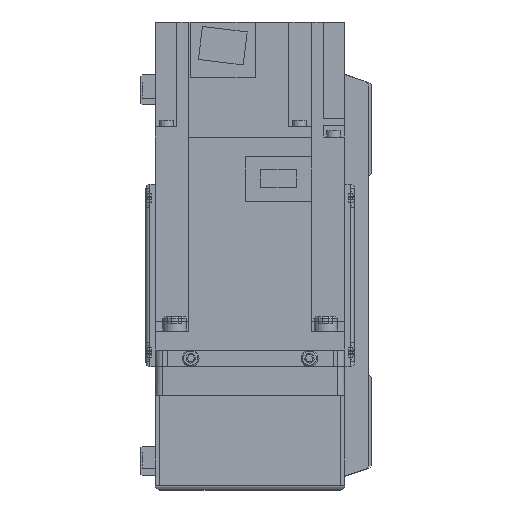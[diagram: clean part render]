
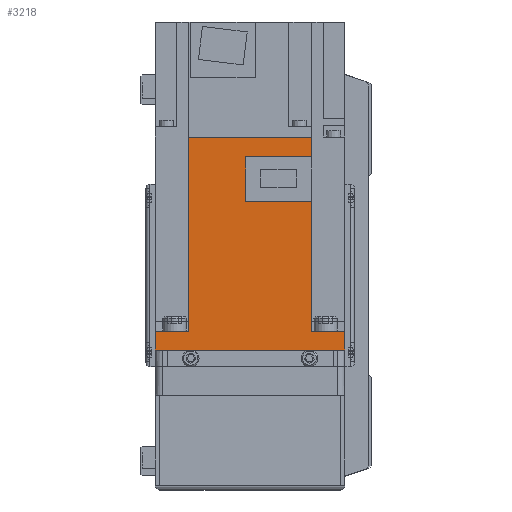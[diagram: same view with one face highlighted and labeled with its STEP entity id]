
A CAD part, left-side view. The second image highlights one B-rep face of the part: STEP entity #3218.
In plain terms, the highlighted planar face has unit normal (-1, 0, 0) as drawn and (1, 0, 0) by its records, which use the part's own axes.
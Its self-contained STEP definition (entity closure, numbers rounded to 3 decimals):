
#3218 = ADVANCED_FACE( '', ( #6943 ), #6944, .F. );
#6943 = FACE_OUTER_BOUND( '', #10933, .T. );
#6944 = PLANE( '', #10934 );
#10933 = EDGE_LOOP( '', ( #20022, #20023, #20024, #20025, #20026, #20027, #20028, #20029, #20030, #20031, #20032, #20033 ) );
#10934 = AXIS2_PLACEMENT_3D( '', #20034, #20035, #20036 );
#20022 = ORIENTED_EDGE( '', *, *, #24056, .F. );
#20023 = ORIENTED_EDGE( '', *, *, #25054, .F. );
#20024 = ORIENTED_EDGE( '', *, *, #25072, .F. );
#20025 = ORIENTED_EDGE( '', *, *, #25176, .T. );
#20026 = ORIENTED_EDGE( '', *, *, #25744, .F. );
#20027 = ORIENTED_EDGE( '', *, *, #22412, .T. );
#20028 = ORIENTED_EDGE( '', *, *, #25323, .T. );
#20029 = ORIENTED_EDGE( '', *, *, #23847, .F. );
#20030 = ORIENTED_EDGE( '', *, *, #25745, .F. );
#20031 = ORIENTED_EDGE( '', *, *, #25055, .F. );
#20032 = ORIENTED_EDGE( '', *, *, #23638, .F. );
#20033 = ORIENTED_EDGE( '', *, *, #24823, .F. );
#20034 = CARTESIAN_POINT( '', ( 40., 89.8, 40. ) );
#20035 = DIRECTION( '', ( -1., 0., 0. ) );
#20036 = DIRECTION( '', ( 0., 0., 1. ) );
#22412 = EDGE_CURVE( '', #26674, #26672, #26675, .T. );
#23638 = EDGE_CURVE( '', #28725, #28726, #28727, .T. );
#23847 = EDGE_CURVE( '', #29050, #29052, #29053, .T. );
#24056 = EDGE_CURVE( '', #29375, #29377, #29378, .T. );
#24823 = EDGE_CURVE( '', #29377, #28725, #30507, .T. );
#25054 = EDGE_CURVE( '', #30820, #29375, #30822, .T. );
#25055 = EDGE_CURVE( '', #28726, #30823, #30824, .T. );
#25072 = EDGE_CURVE( '', #30846, #30820, #30848, .T. );
#25176 = EDGE_CURVE( '', #30846, #30982, #30984, .T. );
#25323 = EDGE_CURVE( '', #26672, #29052, #31176, .T. );
#25744 = EDGE_CURVE( '', #26674, #30982, #31688, .T. );
#25745 = EDGE_CURVE( '', #30823, #29050, #31689, .T. );
#26672 = VERTEX_POINT( '', #32857 );
#26674 = VERTEX_POINT( '', #32860 );
#26675 = LINE( '', #32861, #32862 );
#28725 = VERTEX_POINT( '', #35962 );
#28726 = VERTEX_POINT( '', #35963 );
#28727 = LINE( '', #35964, #35965 );
#29050 = VERTEX_POINT( '', #36480 );
#29052 = VERTEX_POINT( '', #36483 );
#29053 = LINE( '', #36484, #36485 );
#29375 = VERTEX_POINT( '', #37393 );
#29377 = VERTEX_POINT( '', #37396 );
#29378 = LINE( '', #37397, #37398 );
#30507 = LINE( '', #39197, #39198 );
#30820 = VERTEX_POINT( '', #39639 );
#30822 = LINE( '', #39642, #39643 );
#30823 = VERTEX_POINT( '', #39644 );
#30824 = LINE( '', #39645, #39646 );
#30846 = VERTEX_POINT( '', #39673 );
#30848 = LINE( '', #39676, #39677 );
#30982 = VERTEX_POINT( '', #39861 );
#30984 = LINE( '', #39864, #39865 );
#31176 = LINE( '', #40156, #40157 );
#31688 = LINE( '', #41017, #41018 );
#31689 = LINE( '', #41019, #41020 );
#32857 = CARTESIAN_POINT( '', ( 40., 0., 40. ) );
#32860 = CARTESIAN_POINT( '', ( 40., 8., 40. ) );
#32861 = CARTESIAN_POINT( '', ( 40., 89.8, 40. ) );
#32862 = VECTOR( '', #42086, 1000. );
#35962 = CARTESIAN_POINT( '', ( 40., 62.8, 1.8 ) );
#35963 = CARTESIAN_POINT( '', ( 40., 62.8, -25.95 ) );
#35964 = CARTESIAN_POINT( '', ( 40., 62.8, 1.8 ) );
#35965 = VECTOR( '', #43738, 1000. );
#36480 = CARTESIAN_POINT( '', ( 40., 8., -40. ) );
#36483 = CARTESIAN_POINT( '', ( 40., 0., -40. ) );
#36484 = CARTESIAN_POINT( '', ( 40., 89.8, -40. ) );
#36485 = VECTOR( '', #43993, 1000. );
#37393 = CARTESIAN_POINT( '', ( 40., 81.4, -25.95 ) );
#37396 = CARTESIAN_POINT( '', ( 40., 81.4, 1.8 ) );
#37397 = CARTESIAN_POINT( '', ( 40., 81.4, -26. ) );
#37398 = VECTOR( '', #44214, 1000. );
#39197 = CARTESIAN_POINT( '', ( 40., 81.4, 1.8 ) );
#39198 = VECTOR( '', #45142, 1000. );
#39639 = CARTESIAN_POINT( '', ( 40., 89.8, -25.95 ) );
#39642 = CARTESIAN_POINT( '', ( 40., 158., -25.95 ) );
#39643 = VECTOR( '', #45399, 1000. );
#39644 = CARTESIAN_POINT( '', ( 40., 8., -25.95 ) );
#39645 = CARTESIAN_POINT( '', ( 40., 158., -25.95 ) );
#39646 = VECTOR( '', #45400, 1000. );
#39673 = CARTESIAN_POINT( '', ( 40., 89.8, 25.95 ) );
#39676 = CARTESIAN_POINT( '', ( 40., 89.8, 40. ) );
#39677 = VECTOR( '', #45419, 1000. );
#39861 = CARTESIAN_POINT( '', ( 40., 8., 25.95 ) );
#39864 = CARTESIAN_POINT( '', ( 40., 158., 25.95 ) );
#39865 = VECTOR( '', #45551, 1000. );
#40156 = CARTESIAN_POINT( '', ( 40., 0., 40. ) );
#40157 = VECTOR( '', #45721, 1000. );
#41017 = CARTESIAN_POINT( '', ( 40., 8., 40. ) );
#41018 = VECTOR( '', #46096, 1000. );
#41019 = CARTESIAN_POINT( '', ( 40., 8., 40. ) );
#41020 = VECTOR( '', #46097, 1000. );
#42086 = DIRECTION( '', ( 0., -1., 0. ) );
#43738 = DIRECTION( '', ( 0., 0., -1. ) );
#43993 = DIRECTION( '', ( 0., -1., 0. ) );
#44214 = DIRECTION( '', ( 0., 0., 1. ) );
#45142 = DIRECTION( '', ( 0., -1., 0. ) );
#45399 = DIRECTION( '', ( 0., -1., 0. ) );
#45400 = DIRECTION( '', ( 0., -1., 0. ) );
#45419 = DIRECTION( '', ( 0., 0., -1. ) );
#45551 = DIRECTION( '', ( 0., -1., 0. ) );
#45721 = DIRECTION( '', ( 0., 0., -1. ) );
#46096 = DIRECTION( '', ( 0., 0., -1. ) );
#46097 = DIRECTION( '', ( 0., 0., -1. ) );
